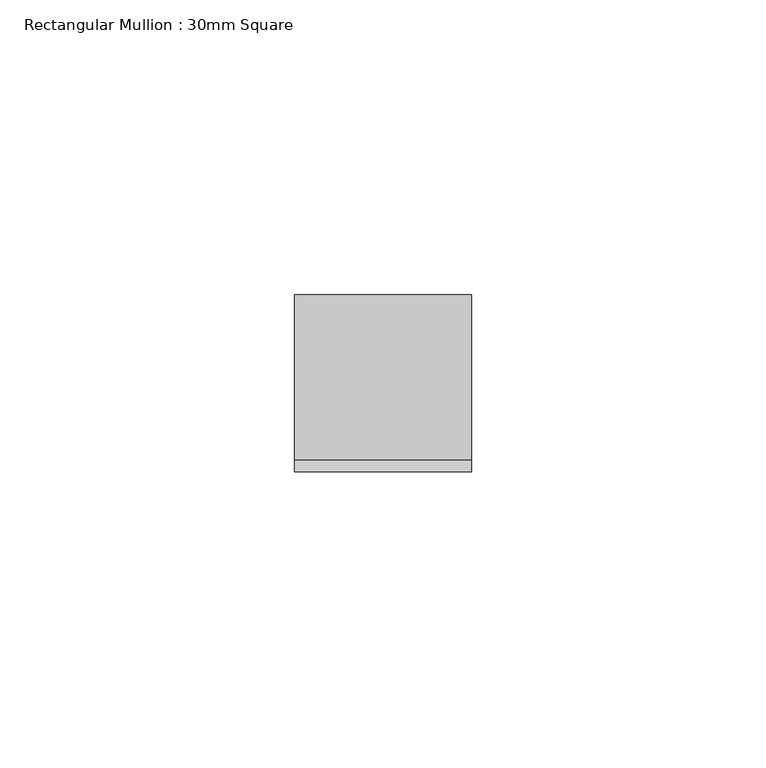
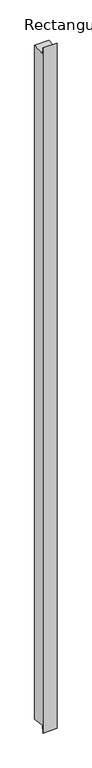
"""IFC4 building model written with IfcOpenShell, lengths in millimetres: member geometry, Rectangular Mullion : 30mm Square."""

import ifcopenshell
import ifcopenshell.guid

model = None  # the IFC model being written
_history = None  # IfcOwnerHistory: only IFC2X3 demands one
_inside = {}  # id of a spatial element -> (the spatial element, [elements in it])
_under = {}  # id of a project, library or spatial element -> (it, [spatial elements below it])
_declared = {}  # id of a project -> (the project, [libraries it declares])
_typed = {}  # id of a type object -> (the type object, [elements of that type])
_made_of = {}  # id of a material, layer set ... -> (it, [elements and type objects made of it])


def new_model(schema):
    """Start an empty IFC model of exactly this schema.

    Asked for "IFC4X3", IfcOpenShell would pick the latest addendum, in which some entities
    have other attributes; the version numbers below select the first issue.
    IFC2X3 requires an IfcOwnerHistory on every rooted entity: one is made here for all.
    """
    global model, _history
    if schema == "IFC4X3":
        model = ifcopenshell.file(schema_version=(4, 3, 0, 0))
    else:
        model = ifcopenshell.file(schema=schema)
    _inside.clear()
    _under.clear()
    _declared.clear()
    _typed.clear()
    _made_of.clear()
    _history = None
    if model.schema == "IFC2X3":
        org = make("IfcOrganization", Name="unknown")
        user = make(
            "IfcPersonAndOrganization",
            ThePerson=make("IfcPerson", FamilyName="unknown"),
            TheOrganization=org,
        )
        app = make(
            "IfcApplication",
            ApplicationDeveloper=org,
            Version="unknown",
            ApplicationFullName="unknown",
            ApplicationIdentifier="unknown",
        )
        _history = make(
            "IfcOwnerHistory",
            OwningUser=user,
            OwningApplication=app,
            ChangeAction="ADDED",
            CreationDate=0,
        )
    return model


def make(cls, **values):
    """One entity of the class cls with the attributes given. An attribute that is None is left unset."""
    return model.create_entity(
        cls, **{name: value for name, value in values.items() if value is not None}
    )


def rooted(cls, **values):
    """An entity with a GlobalId (a new one), such as an element, a storey or a relation."""
    return make(cls, GlobalId=ifcopenshell.guid.new(), OwnerHistory=_history, **values)


def si_unit(unit_type, name, prefix=None):
    """IfcSIUnit, for example si_unit("LENGTHUNIT", "METRE", prefix="MILLI")."""
    return make("IfcSIUnit", UnitType=unit_type, Prefix=prefix, Name=name)


def assignment(units):
    """IfcUnitAssignment: the units of a project."""
    return None if units is None else make("IfcUnitAssignment", Units=units)


def point(xyz):
    """IfcCartesianPoint."""
    return None if xyz is None else make("IfcCartesianPoint", Coordinates=xyz)


def direction(xyz):
    """IfcDirection."""
    return None if xyz is None else make("IfcDirection", DirectionRatios=xyz)


def frame(location, z_axis=None, x_axis=None):
    """IfcAxis2Placement3D, a coordinate frame: its origin and axes. An axis left out is left unset."""
    return make(
        "IfcAxis2Placement3D",
        Location=point(location),
        Axis=direction(z_axis),
        RefDirection=direction(x_axis),
    )


def origin():
    """The frame at (0, 0, 0) with its axes left unset."""
    return frame((0.0, 0.0, 0.0))


def place(relative_to, where):
    """IfcLocalPlacement: puts the frame where relative to a parent placement (None: the world)."""
    return make(
        "IfcLocalPlacement", PlacementRelTo=relative_to, RelativePlacement=where
    )


def context(
    kind, dimensions, precision=None, world=None, true_north=None, identifier=None
):
    """IfcGeometricRepresentationContext, for example the 3D "Model" context."""
    return make(
        "IfcGeometricRepresentationContext",
        ContextIdentifier=identifier,
        ContextType=kind,
        CoordinateSpaceDimension=dimensions,
        Precision=precision,
        WorldCoordinateSystem=world,
        TrueNorth=true_north,
    )


def project(units=None, contexts=None):
    """IfcProject with its units and contexts."""
    return rooted(
        "IfcProject",
        Name="project",
        RepresentationContexts=contexts,
        UnitsInContext=assignment(units),
    )


def spatial(cls, under=None, at=None, **own):
    """A site, building, storey or space (cls), placed at a placement, below another one or the project."""
    s = rooted(cls, ObjectPlacement=at, **own)
    if under is not None:
        _under.setdefault(under.id(), (under, []))[1].append(s)
    return s


def polyline(points):
    """IfcPolyline through the points."""
    return make("IfcPolyline", Points=[point(p) for p in points])


def outline(outer, holes=None, kind="AREA"):
    """IfcArbitraryClosedProfileDef: a profile drawn as a closed curve; with holes, ...WithVoids."""
    if holes is None:
        return make("IfcArbitraryClosedProfileDef", ProfileType=kind, OuterCurve=outer)
    return make(
        "IfcArbitraryProfileDefWithVoids",
        ProfileType=kind,
        OuterCurve=outer,
        InnerCurves=holes,
    )


def extrude(swept, where, along, depth):
    """IfcExtrudedAreaSolid: the profile swept, set in the frame where, extruded along a direction by depth."""
    return make(
        "IfcExtrudedAreaSolid",
        SweptArea=swept,
        Position=where,
        ExtrudedDirection=direction(along),
        Depth=depth,
    )


def shape(context_of_items, identifier, shape_type, items):
    """IfcShapeRepresentation: the items that make up one representation, for example the "Body"."""
    return make(
        "IfcShapeRepresentation",
        ContextOfItems=context_of_items,
        RepresentationIdentifier=identifier,
        RepresentationType=shape_type,
        Items=items,
    )


def source(mapping_origin, context_of_items, identifier, shape_type, items):
    """IfcRepresentationMap: a shape defined once, which mapped items show again and again."""
    return make(
        "IfcRepresentationMap",
        MappingOrigin=mapping_origin,
        MappedRepresentation=shape(context_of_items, identifier, shape_type, items),
    )


def transform(
    local_origin,
    x_axis=None,
    y_axis=None,
    z_axis=None,
    scale=None,
    scale2=None,
    scale3=None,
    uniform=True,
):
    """IfcCartesianTransformationOperator3D, or its non-uniform kind. x_axis, y_axis, z_axis: its Axis1, 2, 3."""
    if uniform:
        return make(
            "IfcCartesianTransformationOperator3D",
            Axis1=direction(x_axis),
            Axis2=direction(y_axis),
            LocalOrigin=point(local_origin),
            Scale=scale,
            Axis3=direction(z_axis),
        )
    return make(
        "IfcCartesianTransformationOperator3DnonUniform",
        Axis1=direction(x_axis),
        Axis2=direction(y_axis),
        LocalOrigin=point(local_origin),
        Scale=scale,
        Axis3=direction(z_axis),
        Scale2=scale2,
        Scale3=scale3,
    )


def mapped(mapping_source, mapping_target):
    """IfcMappedItem: shows the shape of a source again, moved by a transform."""
    return make(
        "IfcMappedItem", MappingSource=mapping_source, MappingTarget=mapping_target
    )


def made_of(thing, what):
    """Note that an element or type object is made of a material, layer set ...; save() writes the relation."""
    if what is not None:
        _made_of.setdefault(what.id(), (what, []))[1].append(thing)
    return thing


def element(
    cls,
    number,
    at=None,
    inside=None,
    cuts=None,
    type_object=None,
    material=None,
    context=None,
    identifier="Body",
    shape_type=None,
    held_by="IfcProductDefinitionShape",
    body=None,
    shapes=None,
    **own,
):
    """One element of the class cls, such as IfcWall. Its Tag is "e" and its number.

    at: its placement. inside: the storey or other place that contains it. cuts: it is an
    opening in that element (IfcRelVoidsElement). A single representation is given by context,
    identifier, shape_type and body (its items); several are given by shapes. held_by: the class
    of the entity that holds the representations. save() writes the other relations.
    """
    e = rooted(cls, Tag="e%d" % number, ObjectPlacement=at, **own)
    if body is not None:
        shapes = [shape(context, identifier, shape_type, body)]
    if shapes is not None:
        e.Representation = make(held_by, Representations=shapes)
    if inside is not None:
        _inside.setdefault(inside.id(), (inside, []))[1].append(e)
    if cuts is not None:
        rooted(
            "IfcRelVoidsElement", RelatingBuildingElement=cuts, RelatedOpeningElement=e
        )
    if type_object is not None:
        _typed.setdefault(type_object.id(), (type_object, []))[1].append(e)
    return made_of(e, material)


def aggregate(whole, parts):
    """IfcRelAggregates: a whole, such as a stair, and the parts it consists of."""
    return rooted("IfcRelAggregates", RelatingObject=whole, RelatedObjects=parts)


def save(model, path):
    """Write the relations noted so far, then the file.

    IfcRelAggregates (storeys below a building ...), IfcRelContainedInSpatialStructure (elements
    in a storey), IfcRelDefinesByType, IfcRelAssociatesMaterial and IfcRelDeclares: one each for
    every whole, place, type object, material and project.
    """
    for whole, parts in _under.values():
        aggregate(whole, parts)
    for where, things in _inside.values():
        rooted(
            "IfcRelContainedInSpatialStructure",
            RelatedElements=things,
            RelatingStructure=where,
        )
    for kind, things in _typed.values():
        rooted("IfcRelDefinesByType", RelatedObjects=things, RelatingType=kind)
    for what, things in _made_of.values():
        rooted("IfcRelAssociatesMaterial", RelatedObjects=things, RelatingMaterial=what)
    for by, libraries in _declared.values():
        rooted("IfcRelDeclares", RelatingContext=by, RelatedDefinitions=libraries)
    model.write(path)


def rectangular_mullion_30mm_square_80292d53(model_context):
    return source(origin(), model_context, "Body", "SweptSolid", [
        extrude(outline(polyline([(-15.0, 14.058809), (-13.0073511, -1.7573511), (15.0, 1.7712434), (15.0, -1495.7712434), (-13.0073511, -1492.2426489), (-15.0, -1508.058809), (-15.0, 14.058809)])), frame((-30.0, 0.0, 0.0), z_axis=(1.0, 0.0, 0.0), x_axis=(0.0, 1.0, 0.0)), (0.0, 0.0, 1.0), 30.0),
    ])


if __name__ == "__main__":
    model = new_model("IFC4")
    model_context = context("Model", 3, world=origin())
    ifc_project = project(units=[si_unit("LENGTHUNIT", "METRE", prefix="MILLI")], contexts=[model_context])
    site = spatial("IfcSite", under=ifc_project)
    building = spatial("IfcBuilding", under=site)
    placement = place(None, origin())
    rectangular_mullion_30mm_square_shape = rectangular_mullion_30mm_square_80292d53(model_context)
    element("IfcMember", 1, ObjectType="Rectangular Mullion : 30mm Square", at=placement, inside=building, context=model_context, shape_type="MappedRepresentation", body=[
        mapped(rectangular_mullion_30mm_square_shape, transform((0.0, 0.0, 0.0), x_axis=(1.0, 0.0, 0.0), y_axis=(0.0, 1.0, 0.0), z_axis=(0.0, 0.0, 1.0))),
    ])
    save(model, "model.ifc")
